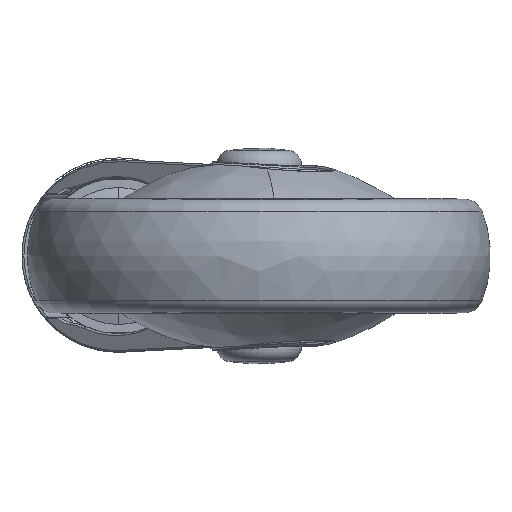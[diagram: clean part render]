
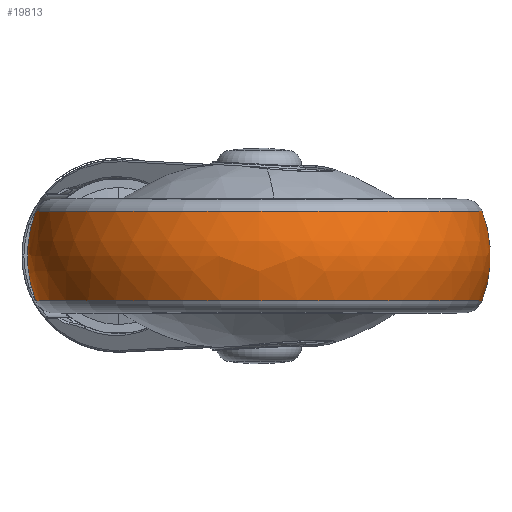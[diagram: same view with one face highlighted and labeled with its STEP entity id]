
A CAD part, front view. The second image highlights one B-rep face of the part: STEP entity #19813.
In plain terms, the highlighted free-form (B-spline) face has degree [3, 3] with [7, 4] control points.
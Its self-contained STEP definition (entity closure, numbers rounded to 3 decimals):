
#19417=CARTESIAN_POINT('',(9.5,-88.,0.));
#19418=DIRECTION('',(0.,1.,0.));
#19419=DIRECTION('',(-0.934,0.,-0.356));
#19420=AXIS2_PLACEMENT_3D('',#19417,#19418,#19419);
#19422=CARTESIAN_POINT('',(38.,-88.,12.118));
#19423=DIRECTION('',(0.,0.,1.));
#19424=DIRECTION('',(-1.,0.,0.));
#19425=AXIS2_PLACEMENT_3D('',#19422,#19423,#19424);
#19427=CARTESIAN_POINT('',(66.5,-88.,0.));
#19428=DIRECTION('',(0.,-1.,0.));
#19429=DIRECTION('',(0.934,0.,-0.356));
#19430=AXIS2_PLACEMENT_3D('',#19427,#19428,#19429);
#19432=CARTESIAN_POINT('',(38.,-88.,-12.118));
#19433=DIRECTION('',(0.,0.,1.));
#19434=DIRECTION('',(-1.,0.,0.));
#19435=AXIS2_PLACEMENT_3D('',#19432,#19433,#19434);
#19593=CARTESIAN_POINT('',(-22.267,-88.,-12.118));
#19594=CARTESIAN_POINT('',(-22.267,-88.,12.118));
#19595=VERTEX_POINT('',#19593);
#19596=VERTEX_POINT('',#19594);
#19597=CARTESIAN_POINT('',(98.267,-88.,-12.118));
#19598=CARTESIAN_POINT('',(98.267,-88.,12.118));
#19599=VERTEX_POINT('',#19597);
#19600=VERTEX_POINT('',#19598);
#19776=CARTESIAN_POINT('',(97.969,-84.227,
12.58));
#19777=CARTESIAN_POINT('',(101.219,-84.023,
4.401));
#19778=CARTESIAN_POINT('',(101.219,-84.023,
-4.401));
#19779=CARTESIAN_POINT('',(97.969,-84.227,
-12.58));
#19780=CARTESIAN_POINT('',(100.29,-121.132,
12.58));
#19781=CARTESIAN_POINT('',(103.667,-122.928,
4.401));
#19782=CARTESIAN_POINT('',(103.667,-122.928,
-4.401));
#19783=CARTESIAN_POINT('',(100.29,-121.132,
-12.58));
#19784=CARTESIAN_POINT('',(74.978,-148.087,
12.58));
#19785=CARTESIAN_POINT('',(76.982,-151.344,
4.401));
#19786=CARTESIAN_POINT('',(76.982,-151.344,
-4.401));
#19787=CARTESIAN_POINT('',(74.978,-148.087,
-12.58));
#19788=CARTESIAN_POINT('',(38.,-148.087,12.58));
#19789=CARTESIAN_POINT('',(38.,-151.344,4.401));
#19790=CARTESIAN_POINT('',(38.,-151.344,-4.401));
#19791=CARTESIAN_POINT('',(38.,-148.087,-12.58));
#19792=CARTESIAN_POINT('',(1.022,-148.087,
12.58));
#19793=CARTESIAN_POINT('',(-0.982,-151.344,
4.401));
#19794=CARTESIAN_POINT('',(-0.982,-151.344,
-4.401));
#19795=CARTESIAN_POINT('',(1.022,-148.087,
-12.58));
#19796=CARTESIAN_POINT('',(-24.29,-121.132,
12.58));
#19797=CARTESIAN_POINT('',(-27.667,-122.928,
4.401));
#19798=CARTESIAN_POINT('',(-27.667,-122.928,
-4.401));
#19799=CARTESIAN_POINT('',(-24.29,-121.132,
-12.58));
#19800=CARTESIAN_POINT('',(-21.969,-84.227,
12.58));
#19801=CARTESIAN_POINT('',(-25.219,-84.023,
4.401));
#19802=CARTESIAN_POINT('',(-25.219,-84.023,
-4.401));
#19803=CARTESIAN_POINT('',(-21.969,-84.227,
-12.58));
#19804=(BOUNDED_SURFACE()B_SPLINE_SURFACE(3,3,((#19776,#19777,#19778,#19779),(
#19780,#19781,#19782,#19783),(#19784,#19785,#19786,#19787),(#19788,#19789,
#19790,#19791),(#19792,#19793,#19794,#19795),(#19796,#19797,#19798,#19799),(
#19800,#19801,#19802,#19803)),.UNSPECIFIED.,.F.,.F.,.F.)B_SPLINE_SURFACE_WITH_KNOTS((4,3,4),(4,4),(0.,1.,2.),(0.,1.),.UNSPECIFIED.)GEOMETRIC_REPRESENTATION_ITEM()RATIONAL_B_SPLINE_SURFACE(((1.231,1.173,
1.173,1.231),(0.972,0.926,
0.926,0.972),(0.972,0.926,
0.926,0.972),(1.231,1.173,
1.173,1.231),(0.972,0.926,
0.926,0.972),(0.972,0.926,
0.926,0.972),(1.231,1.173,
1.173,1.231)))REPRESENTATION_ITEM('')SURFACE());
#19805=ORIENTED_EDGE('',*,*,#19759,.T.);
#19807=ORIENTED_EDGE('',*,*,#19806,.T.);
#19808=ORIENTED_EDGE('',*,*,#19762,.F.);
#19810=ORIENTED_EDGE('',*,*,#19809,.F.);
#19811=EDGE_LOOP('',(#19805,#19807,#19808,#19810));
#19812=FACE_OUTER_BOUND('',#19811,.F.);
#19421=CIRCLE('',#19420,34.);
#19426=CIRCLE('',#19425,60.267);
#19431=CIRCLE('',#19430,34.);
#19436=CIRCLE('',#19435,60.267);
#19759=EDGE_CURVE('',#19595,#19596,#19421,.T.);
#19762=EDGE_CURVE('',#19599,#19600,#19431,.T.);
#19806=EDGE_CURVE('',#19596,#19600,#19426,.T.);
#19809=EDGE_CURVE('',#19595,#19599,#19436,.T.);
#19813=ADVANCED_FACE('',(#19812),#19804,.T.);
